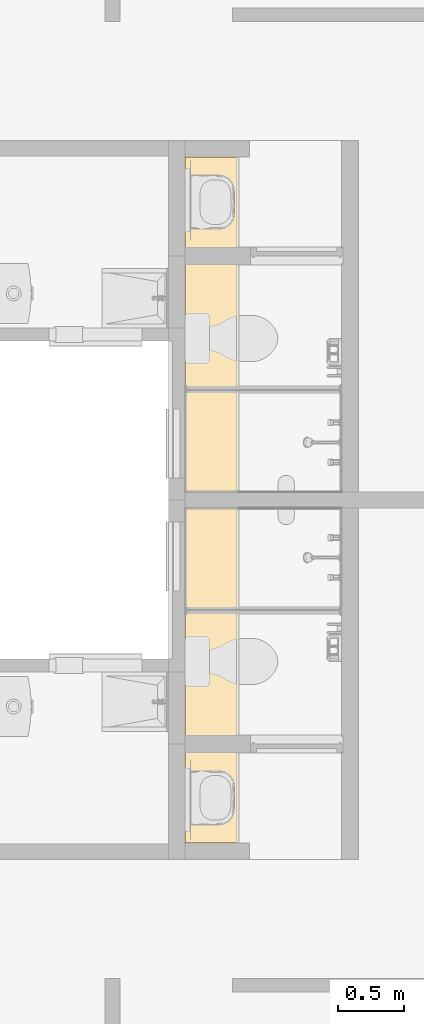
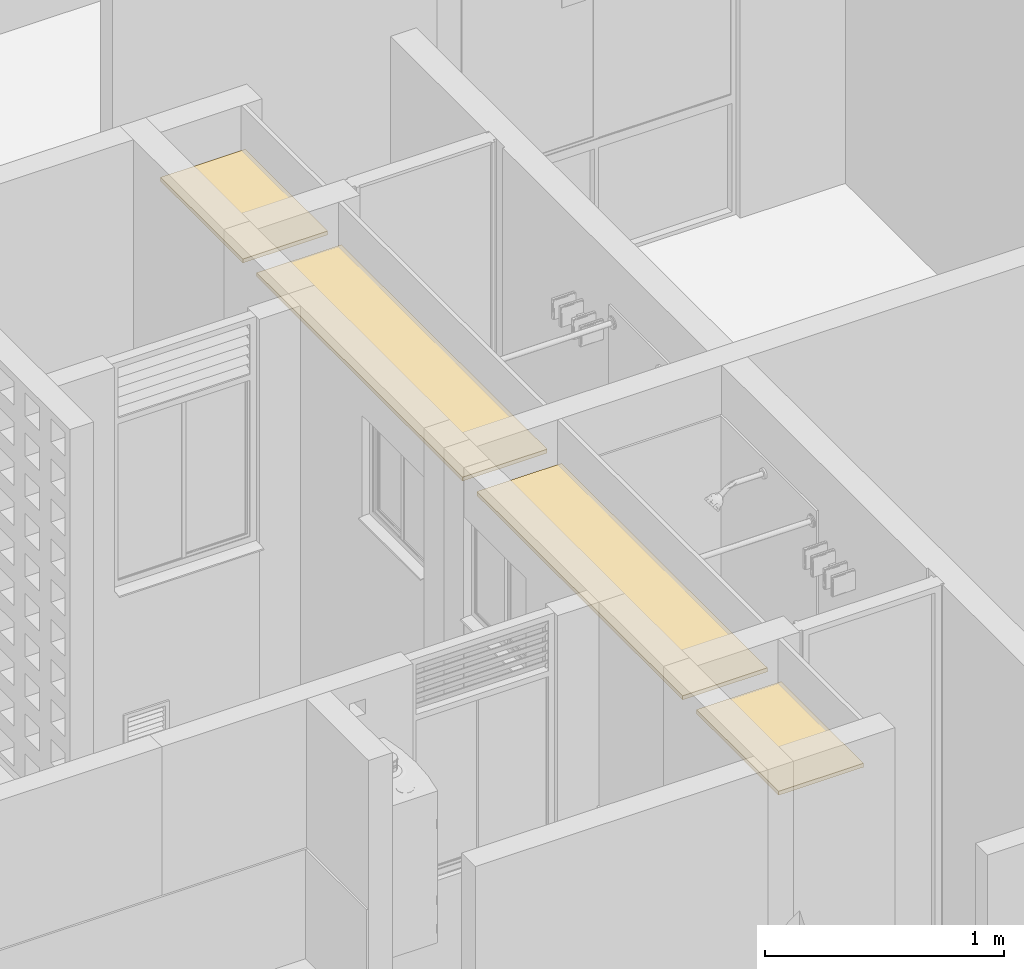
# One storey, part 39 of 51: 2 coverings.
"""IFC4 building model written with IfcOpenShell, lengths in metres."""

from ifc_helpers import new_model, entity, si_unit, converted_unit, derived_unit, direction, frame, origin, place, context, subcontext, project, spatial, indexed_curve, outline, extrude, material, type_object, element, save


model = new_model("IFC4")

# Units and contexts
model_context = context("Model", 3, precision=1e-05, world=origin(), true_north=direction((6.123031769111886e-17, 1.0)))
body_context = subcontext(model_context, "Body", "Model", "MODEL_VIEW")
ifc_project = project(units=[si_unit("LENGTHUNIT", "METRE"), si_unit("AREAUNIT", "SQUARE_METRE"), si_unit("VOLUMEUNIT", "CUBIC_METRE"), converted_unit("PLANEANGLEUNIT", "DEGREE", entity("IfcRatioMeasure", 0.017453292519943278), si_unit("PLANEANGLEUNIT", "RADIAN"), dimensions=[0, 0, 0, 0, 0, 0, 0]), si_unit("MASSUNIT", "GRAM", prefix="KILO"), derived_unit("MASSDENSITYUNIT", [(si_unit("MASSUNIT", "GRAM", prefix="KILO"), 1), (si_unit("LENGTHUNIT", "METRE"), -3)]), derived_unit("IONCONCENTRATIONUNIT", [(si_unit("MASSUNIT", "GRAM", prefix="KILO"), 1), (si_unit("LENGTHUNIT", "METRE"), -3)]), derived_unit("MOMENTOFINERTIAUNIT", [(si_unit("LENGTHUNIT", "METRE"), 4)]), si_unit("TIMEUNIT", "SECOND"), si_unit("FREQUENCYUNIT", "HERTZ"), si_unit("THERMODYNAMICTEMPERATUREUNIT", "DEGREE_CELSIUS"), derived_unit("THERMALTRANSMITTANCEUNIT", [(si_unit("MASSUNIT", "GRAM", prefix="KILO"), 1), (si_unit("THERMODYNAMICTEMPERATUREUNIT", "KELVIN"), -1), (si_unit("TIMEUNIT", "SECOND"), -3)]), derived_unit("THERMALCONDUCTANCEUNIT", [(si_unit("MASSUNIT", "GRAM", prefix="KILO"), 1), (si_unit("THERMODYNAMICTEMPERATUREUNIT", "KELVIN"), -1), (si_unit("TIMEUNIT", "SECOND"), -3), (si_unit("LENGTHUNIT", "METRE"), 1)]), derived_unit("VOLUMETRICFLOWRATEUNIT", [(si_unit("LENGTHUNIT", "METRE"), 3), (si_unit("TIMEUNIT", "SECOND"), -1)]), derived_unit("MASSFLOWRATEUNIT", [(si_unit("MASSUNIT", "GRAM", prefix="KILO"), 1), (si_unit("TIMEUNIT", "SECOND"), -1)]), derived_unit("ROTATIONALFREQUENCYUNIT", [(si_unit("TIMEUNIT", "SECOND"), -1)]), si_unit("ELECTRICCURRENTUNIT", "AMPERE"), si_unit("ELECTRICVOLTAGEUNIT", "VOLT"), si_unit("POWERUNIT", "WATT"), si_unit("FORCEUNIT", "NEWTON", prefix="KILO"), si_unit("ILLUMINANCEUNIT", "LUX"), si_unit("LUMINOUSFLUXUNIT", "LUMEN"), si_unit("LUMINOUSINTENSITYUNIT", "CANDELA"), derived_unit("USERDEFINED", [(si_unit("MASSUNIT", "GRAM", prefix="KILO"), -1), (si_unit("LENGTHUNIT", "METRE"), -2), (si_unit("TIMEUNIT", "SECOND"), 3), (si_unit("LUMINOUSFLUXUNIT", "LUMEN"), 1)]), derived_unit("USERDEFINED", [(si_unit("MASSUNIT", "GRAM", prefix="KILO"), 1), (si_unit("TIMEUNIT", "SECOND"), -3), (si_unit("LENGTHUNIT", "METRE"), 3), (si_unit("ELECTRICCURRENTUNIT", "AMPERE"), -2)]), derived_unit("SOUNDPOWERUNIT", [(si_unit("MASSUNIT", "GRAM", prefix="KILO"), 1), (si_unit("TIMEUNIT", "SECOND"), -3), (si_unit("LENGTHUNIT", "METRE"), 2)]), derived_unit("SOUNDPRESSUREUNIT", [(si_unit("MASSUNIT", "GRAM", prefix="KILO"), 1), (si_unit("LENGTHUNIT", "METRE"), -1), (si_unit("TIMEUNIT", "SECOND"), -2)]), derived_unit("LINEARVELOCITYUNIT", [(si_unit("LENGTHUNIT", "METRE"), 1), (si_unit("TIMEUNIT", "SECOND"), -1)]), si_unit("PRESSUREUNIT", "PASCAL"), derived_unit("USERDEFINED", [(si_unit("MASSUNIT", "GRAM", prefix="KILO"), 1), (si_unit("LENGTHUNIT", "METRE"), -2), (si_unit("TIMEUNIT", "SECOND"), -2)]), derived_unit("LINEARFORCEUNIT", [(si_unit("MASSUNIT", "GRAM", prefix="KILO"), 1), (si_unit("TIMEUNIT", "SECOND"), -2)]), derived_unit("PLANARFORCEUNIT", [(si_unit("MASSUNIT", "GRAM", prefix="KILO"), 1), (si_unit("LENGTHUNIT", "METRE"), -1), (si_unit("TIMEUNIT", "SECOND"), -2)]), derived_unit("SPECIFICHEATCAPACITYUNIT", [(si_unit("THERMODYNAMICTEMPERATUREUNIT", "KELVIN"), -1), (si_unit("LENGTHUNIT", "METRE"), 2), (si_unit("TIMEUNIT", "SECOND"), -2)]), derived_unit("HEATINGVALUEUNIT", [(si_unit("LENGTHUNIT", "METRE"), 2), (si_unit("TIMEUNIT", "SECOND"), -2)]), derived_unit("VAPORPERMEABILITYUNIT", [(si_unit("LENGTHUNIT", "METRE"), -1), (si_unit("TIMEUNIT", "SECOND"), 1)]), derived_unit("DYNAMICVISCOSITYUNIT", [(si_unit("MASSUNIT", "GRAM", prefix="KILO"), 1), (si_unit("TIMEUNIT", "SECOND"), -1), (si_unit("LENGTHUNIT", "METRE"), -1)]), derived_unit("THERMALEXPANSIONCOEFFICIENTUNIT", [(si_unit("THERMODYNAMICTEMPERATUREUNIT", "KELVIN"), -1)]), derived_unit("MODULUSOFELASTICITYUNIT", [(si_unit("MASSUNIT", "GRAM", prefix="KILO"), 1), (si_unit("LENGTHUNIT", "METRE"), -1), (si_unit("TIMEUNIT", "SECOND"), -2)]), derived_unit("ISOTHERMALMOISTURECAPACITYUNIT", [(si_unit("LENGTHUNIT", "METRE"), 3), (si_unit("MASSUNIT", "GRAM", prefix="KILO"), -1)]), derived_unit("MOISTUREDIFFUSIVITYUNIT", [(si_unit("TIMEUNIT", "SECOND"), -1), (si_unit("LENGTHUNIT", "METRE"), 2)])], contexts=[model_context])

# Site, building, storey, space
site_placement = place(None, origin())
site = spatial("IfcSite", under=ifc_project, at=site_placement, Name="Default", CompositionType="ELEMENT")
building_placement = place(site_placement, origin())
building = spatial("IfcBuilding", under=site, at=building_placement, CompositionType="ELEMENT")
storey_placement = place(building_placement, frame((0.0, 0.0, 2.350000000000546)))
storey = spatial("IfcBuildingStorey", under=building, at=storey_placement, Name="Nivel 2", CompositionType="ELEMENT", Elevation=2.350000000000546)
space_1_placement = place(storey_placement, origin())
space_1 = spatial("IfcSpace", under=storey, at=space_1_placement, Name="419", CompositionType="ELEMENT", PredefinedType="SPACE")

# Covering
ifc_material = material(Name="Plasterboard", Category="Materials")
covering_type = type_object("IfcCoveringType", Name="Compound Ceiling:C1070 - 0.02m - Plafón - Drywall", PredefinedType="CEILING")
covering_1_placement = place(space_1_placement, origin())
element("IfcCovering", 1, at=covering_1_placement, inside=space_1, type_object=covering_type, material=ifc_material, Name="Compound Ceiling:C1070 - 0.02m - Plafón - Drywall", ObjectType="Compound Ceiling:C1070 - 0.02m - Plafón - Drywall", PredefinedType="CEILING", context=body_context, shape_type="SweptSolid", body=[
    extrude(outline(indexed_curve([(-0.20500000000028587, -0.862499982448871), (0.20500000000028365, -0.862499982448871), (0.2050000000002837, 0.862499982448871), (-0.20500000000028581, 0.862499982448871), (-0.20500000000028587, -0.862499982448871)], self_intersect=False)), frame((14.887500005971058, -5.502500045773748, 2.0)), (0.0, 0.0, 1.0), 0.019999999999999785),
    extrude(outline(indexed_curve([(-0.20500000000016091, -0.3450000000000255), (0.20500000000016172, -0.3450000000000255), (0.20500000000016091, 0.3450000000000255), (-0.20500000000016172, 0.3450000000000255), (-0.20500000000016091, -0.3450000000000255)], self_intersect=False)), frame((14.887500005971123, -4.18000006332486, 2.0)), (0.0, 0.0, 1.0), 0.019999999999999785),
])

# Space
space_2_placement = place(storey_placement, origin())
space_2 = spatial("IfcSpace", under=storey, at=space_2_placement, Name="426", CompositionType="ELEMENT", PredefinedType="SPACE")

# Covering
covering_2_placement = place(space_2_placement, origin())
element("IfcCovering", 2, at=covering_2_placement, inside=space_2, type_object=covering_type, material=ifc_material, Name="Compound Ceiling:C1070 - 0.02m - Plafón - Drywall", ObjectType="Compound Ceiling:C1070 - 0.02m - Plafón - Drywall", PredefinedType="CEILING", context=body_context, shape_type="SweptSolid", body=[
    extrude(outline(indexed_curve([(-0.8624999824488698, -0.20500000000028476), (0.8624999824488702, -0.20500000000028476), (0.8624999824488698, 0.20500000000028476), (-0.8624999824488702, 0.20500000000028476), (-0.8624999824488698, -0.20500000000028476)], self_intersect=False)), frame((14.887500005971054, -7.347500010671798, 2.0), z_axis=(0.0, 0.0, 1.0), x_axis=(0.0, -1.0, 0.0)), (0.0, 0.0, 1.0), 0.019999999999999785),
    extrude(outline(indexed_curve([(-0.34500000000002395, -0.2050000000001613), (0.3450000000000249, -0.2050000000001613), (0.34500000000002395, 0.2050000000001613), (-0.3450000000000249, 0.2050000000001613), (-0.34500000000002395, -0.2050000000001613)], self_intersect=False)), frame((14.88750000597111, -8.669999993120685, 2.0), z_axis=(0.0, 0.0, 1.0), x_axis=(0.0, -1.0, 0.0)), (0.0, 0.0, 1.0), 0.019999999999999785),
])

save(model, "model.ifc")
